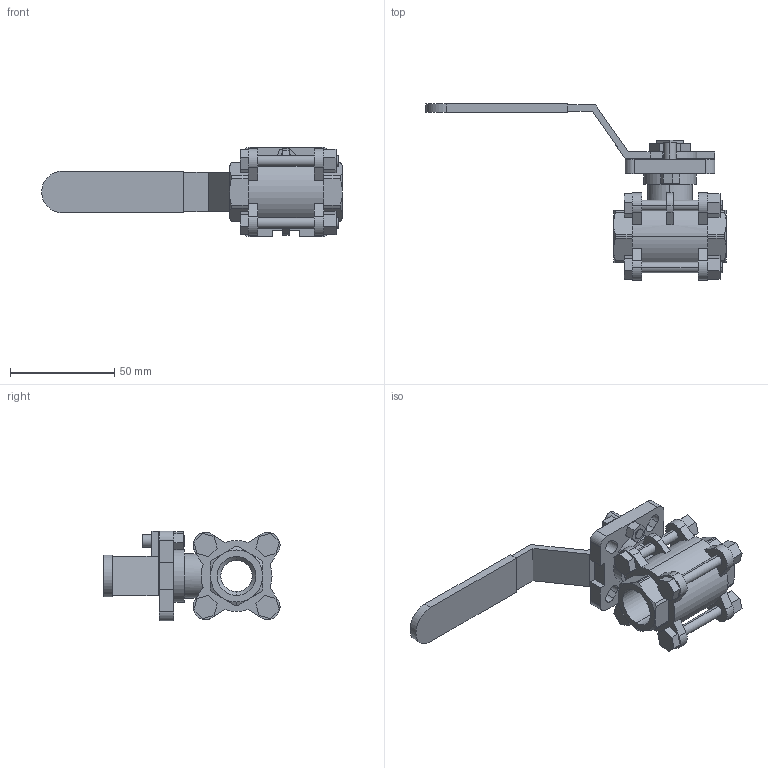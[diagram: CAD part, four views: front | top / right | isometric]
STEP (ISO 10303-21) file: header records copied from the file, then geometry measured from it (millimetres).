
FILE_DESCRIPTION (( 'STEP AP203' ), '1' );
FILE_NAME ('C3.622I015IFVPB0.STEP', '2018-10-12T12:17:41', ( '' ), ( '' ), 'SwSTEP 2.0', 'SolidWorks 2014', '' );
FILE_SCHEMA (( 'CONFIG_CONTROL_DESIGN' ));
Length unit declared in the file: millimetre
Products named in the file (1): C3.622I015IFVPB0
Bounding box: 144 x 84.34 x 43 mm (x, y, z)
Volume: 68743.3 mm3; surface area: 27991 mm2
Topology: 1 solids, 1 shells, 276 faces, 726 edges, 477 vertices
Faces by surface type: plane 175, cylinder 83, cone 18
Entity records: 8820 total; most frequent: CARTESIAN_POINT 1742, ORIENTED_EDGE 1452, DIRECTION 1449, EDGE_CURVE 726, VECTOR 497, LINE 497, VERTEX_POINT 477, AXIS2_PLACEMENT_3D 476
